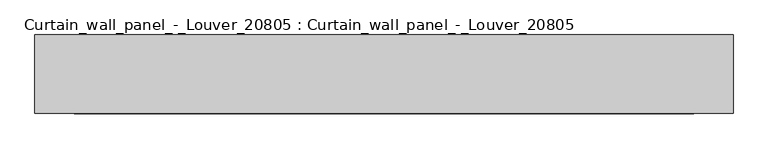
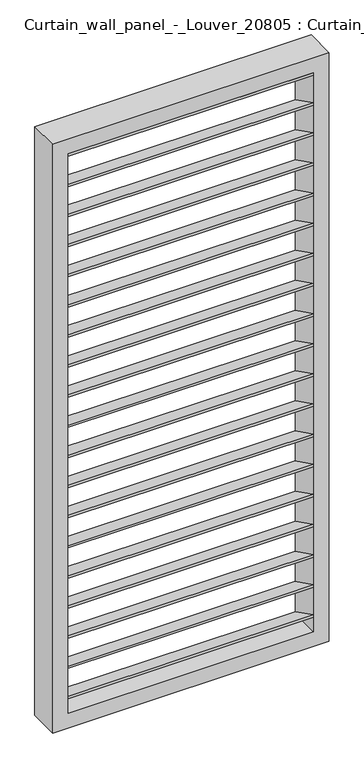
"""IFC4 building model written with IfcOpenShell, lengths in millimetres: plate geometry, Curtain_wall_panel_-_Louver_20805 : Curtain_wall_panel_-_Louver_20805."""

from ifc_helpers import new_model, si_unit, frame, origin, place, context, project, spatial, polyline, outline, extrude, source, transform, mapped, element, save


def curtain_wall_panel_louver_20805_curtain_wall_panel_louver_68f3dc09(model_context):
    return source(origin(), model_context, "Body", "SweptSolid", [
        extrude(outline(polyline([(-200.0, 3678.5908966), (-200.0, 3695.3408295), (0.0, 3595.9558314), (0.0, 3579.2058986), (-200.0, 3678.5908966)])), frame((-788.855, 0.0, 0.0), z_axis=(1.0, 0.0, 0.0), x_axis=(0.0, 1.0, 0.0)), (0.0, 0.0, 1.0), 1577.71),
        extrude(outline(polyline([(-200.0, 3473.9317261), (-200.0, 3490.681659), (0.0, 3391.2966609), (0.0, 3374.546728), (-200.0, 3473.9317261)])), frame((-788.855, 0.0, 0.0), z_axis=(1.0, 0.0, 0.0), x_axis=(0.0, 1.0, 0.0)), (0.0, 0.0, 1.0), 1577.71),
        extrude(outline(polyline([(-200.0, 3269.2725556), (-200.0, 3286.0224885), (0.0, 3186.6374904), (0.0, 3169.8875575), (-200.0, 3269.2725556)])), frame((-788.855, 0.0, 0.0), z_axis=(1.0, 0.0, 0.0), x_axis=(0.0, 1.0, 0.0)), (0.0, 0.0, 1.0), 1577.71),
        extrude(outline(polyline([(-200.0, 3064.6133851), (-200.0, 3081.363318), (0.0, 2981.9783199), (0.0, 2965.228387), (-200.0, 3064.6133851)])), frame((-788.855, 0.0, 0.0), z_axis=(1.0, 0.0, 0.0), x_axis=(0.0, 1.0, 0.0)), (0.0, 0.0, 1.0), 1577.71),
        extrude(outline(polyline([(-200.0, 2859.9542146), (-200.0, 2876.7041475), (0.0, 2777.3191494), (0.0, 2760.5692165), (-200.0, 2859.9542146)])), frame((-788.855, 0.0, 0.0), z_axis=(1.0, 0.0, 0.0), x_axis=(0.0, 1.0, 0.0)), (0.0, 0.0, 1.0), 1577.71),
        extrude(outline(polyline([(-200.0, 2655.2950441), (-200.0, 2672.044977), (0.0, 2572.6599789), (0.0, 2555.910046), (-200.0, 2655.2950441)])), frame((-788.855, 0.0, 0.0), z_axis=(1.0, 0.0, 0.0), x_axis=(0.0, 1.0, 0.0)), (0.0, 0.0, 1.0), 1577.71),
        extrude(outline(polyline([(-200.0, 2450.6358736), (-200.0, 2467.3858065), (0.0, 2368.0008084), (0.0, 2351.2508755), (-200.0, 2450.6358736)])), frame((-788.855, 0.0, 0.0), z_axis=(1.0, 0.0, 0.0), x_axis=(0.0, 1.0, 0.0)), (0.0, 0.0, 1.0), 1577.71),
        extrude(outline(polyline([(-200.0, 2245.9767031), (-200.0, 2262.726636), (0.0, 2163.3416379), (0.0, 2146.591705), (-200.0, 2245.9767031)])), frame((-788.855, 0.0, 0.0), z_axis=(1.0, 0.0, 0.0), x_axis=(0.0, 1.0, 0.0)), (0.0, 0.0, 1.0), 1577.71),
        extrude(outline(polyline([(-200.0, 2041.3175326), (-200.0, 2058.0674655), (0.0, 1958.6824674), (0.0, 1941.9325345), (-200.0, 2041.3175326)])), frame((-788.855, 0.0, 0.0), z_axis=(1.0, 0.0, 0.0), x_axis=(0.0, 1.0, 0.0)), (0.0, 0.0, 1.0), 1577.71),
        extrude(outline(polyline([(-200.0, 1836.6583621), (-200.0, 1853.408295), (0.0, 1754.0232969), (0.0, 1737.273364), (-200.0, 1836.6583621)])), frame((-788.855, 0.0, 0.0), z_axis=(1.0, 0.0, 0.0), x_axis=(0.0, 1.0, 0.0)), (0.0, 0.0, 1.0), 1577.71),
        extrude(outline(polyline([(-200.0, 1631.9991916), (-200.0, 1648.7491245), (0.0, 1549.3641264), (0.0, 1532.6141935), (-200.0, 1631.9991916)])), frame((-788.855, 0.0, 0.0), z_axis=(1.0, 0.0, 0.0), x_axis=(0.0, 1.0, 0.0)), (0.0, 0.0, 1.0), 1577.71),
        extrude(outline(polyline([(-200.0, 1427.3400211), (-200.0, 1444.089954), (0.0, 1344.7049559), (0.0, 1327.955023), (-200.0, 1427.3400211)])), frame((-788.855, 0.0, 0.0), z_axis=(1.0, 0.0, 0.0), x_axis=(0.0, 1.0, 0.0)), (0.0, 0.0, 1.0), 1577.71),
        extrude(outline(polyline([(-200.0, 1222.6808506), (-200.0, 1239.4307835), (0.0, 1140.0457854), (0.0, 1123.2958525), (-200.0, 1222.6808506)])), frame((-788.855, 0.0, 0.0), z_axis=(1.0, 0.0, 0.0), x_axis=(0.0, 1.0, 0.0)), (0.0, 0.0, 1.0), 1577.71),
        extrude(outline(polyline([(-200.0, 1018.0216801), (-200.0, 1034.771613), (0.0, 935.3866149), (0.0, 918.636682), (-200.0, 1018.0216801)])), frame((-788.855, 0.0, 0.0), z_axis=(1.0, 0.0, 0.0), x_axis=(0.0, 1.0, 0.0)), (0.0, 0.0, 1.0), 1577.71),
        extrude(outline(polyline([(-200.0, 813.3625096), (-200.0, 830.1124425), (0.0, 730.7274444), (0.0, 713.9775115), (-200.0, 813.3625096)])), frame((-788.855, 0.0, 0.0), z_axis=(1.0, 0.0, 0.0), x_axis=(0.0, 1.0, 0.0)), (0.0, 0.0, 1.0), 1577.71),
        extrude(outline(polyline([(-200.0, 608.7033391), (-200.0, 625.453272), (0.0, 526.0682739), (0.0, 509.318341), (-200.0, 608.7033391)])), frame((-788.855, 0.0, 0.0), z_axis=(1.0, 0.0, 0.0), x_axis=(0.0, 1.0, 0.0)), (0.0, 0.0, 1.0), 1577.71),
        extrude(outline(polyline([(-200.0, 404.0441686), (-200.0, 420.7941014), (0.0, 321.4091034), (0.0, 304.6591705), (-200.0, 404.0441686)])), frame((-788.855, 0.0, 0.0), z_axis=(1.0, 0.0, 0.0), x_axis=(0.0, 1.0, 0.0)), (0.0, 0.0, 1.0), 1577.71),
        extrude(outline(polyline([(-200.0, 3883.2500672), (-200.0, 3900.0), (0.0, 3800.6150019), (0.0, 3783.8650691), (-200.0, 3883.2500672)])), frame((-788.855, 0.0, 0.0), z_axis=(1.0, 0.0, 0.0), x_axis=(0.0, 1.0, 0.0)), (0.0, 0.0, 1.0), 1577.71),
        extrude(outline(polyline([(-200.0, 199.3849981), (-200.0, 216.1349309), (0.0, 116.7499328), (0.0, 100.0), (-200.0, 199.3849981)])), frame((-788.855, 0.0, 0.0), z_axis=(1.0, 0.0, 0.0), x_axis=(0.0, 1.0, 0.0)), (0.0, 0.0, 1.0), 1577.71),
        extrude(outline(polyline([(4000.0, -888.855), (0.0, -888.855), (0.0, 888.855), (4000.0, 888.855), (4000.0, -888.855)]), holes=[polyline([(3900.0, -788.855), (3900.0, 788.855), (100.0, 788.855), (100.0, -788.855), (3900.0, -788.855)])]), frame((0.0, -200.0, 0.0), z_axis=(0.0, 1.0, 0.0), x_axis=(0.0, 0.0, 1.0)), (0.0, 0.0, 1.0), 200.0),
    ])


if __name__ == "__main__":
    model = new_model("IFC4")
    model_context = context("Model", 3, world=origin())
    ifc_project = project(units=[si_unit("LENGTHUNIT", "METRE", prefix="MILLI")], contexts=[model_context])
    site = spatial("IfcSite", under=ifc_project)
    building = spatial("IfcBuilding", under=site)
    placement = place(None, origin())
    curtain_wall_panel_louver_20805_curtain_wall_panel_louver_shape = curtain_wall_panel_louver_20805_curtain_wall_panel_louver_68f3dc09(model_context)
    element("IfcPlate", 1, ObjectType="Curtain_wall_panel_-_Louver_20805 : Curtain_wall_panel_-_Louver_20805", at=placement, inside=building, context=model_context, shape_type="MappedRepresentation", body=[
        mapped(curtain_wall_panel_louver_20805_curtain_wall_panel_louver_shape, transform((0.0, 0.0, 0.0), x_axis=(1.0, 0.0, 0.0), y_axis=(0.0, 1.0, 0.0), z_axis=(0.0, 0.0, 1.0))),
    ])
    save(model, "model.ifc")
